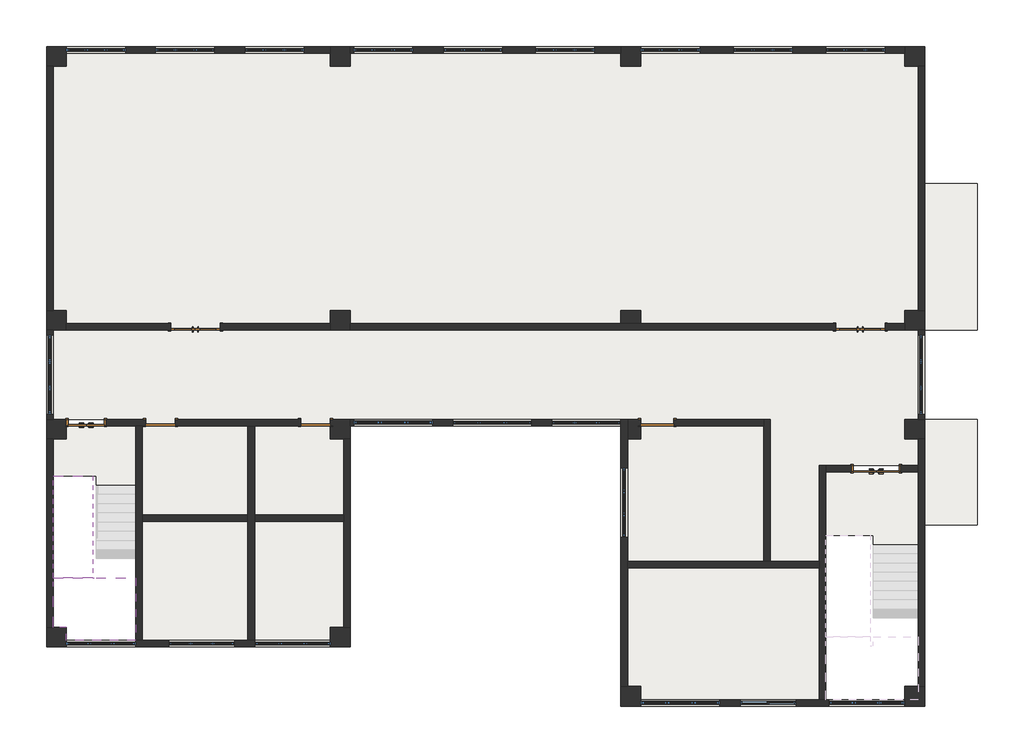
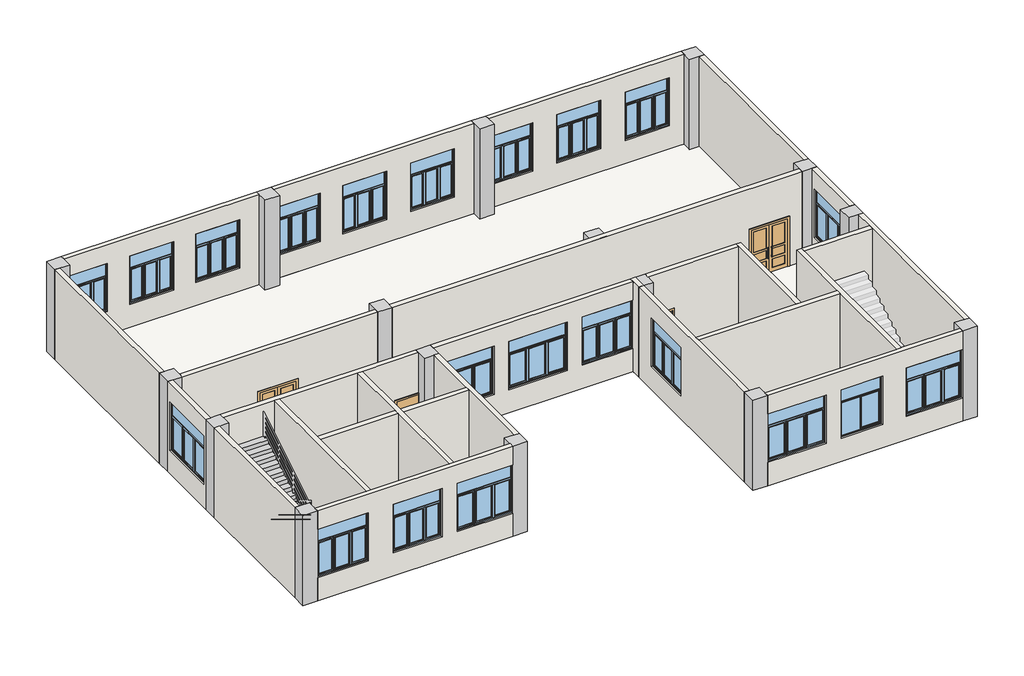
# One storey, part 1 of 3: 25 walls, 21 windows, 16 columns, 7 doors, 6 slabs, 1 stair flight.
"""IFC4 building model written with IfcOpenShell, lengths in millimetres."""

from ifc_helpers import new_model, si_unit, frame, origin, place, context, project, spatial, polyline, outline, extrude, faceted_brep, transform, mapped, element, save
from components import column_600x600_cfa490ef, fm1221_e838069c, fm1521_f2745f28, m0921_bb00f214, m0921_8cb0c558, m1021_0d59c61f, m1221_b3a166ca, m1521_8e1836e7, c1721_525d0301, c1821_f95a3a67, c2021_733b1f83, c2121_4e8fcc55, c2321_a531f027, c2421_0f87a412

model = new_model("IFC4")

# Units and contexts
model_context = context("Model", 3, world=origin())
ifc_project = project(units=[si_unit("LENGTHUNIT", "METRE", prefix="MILLI")], contexts=[model_context])

# Site, building, storey
site = spatial("IfcSite", under=ifc_project)
building = spatial("IfcBuilding", under=site)
storey = spatial("IfcBuildingStorey", under=building, Name="标高 4", Elevation=7100.0)

# Columns
placement = place(None, origin())
column_600x600_shape = column_600x600_cfa490ef(model_context)
element("IfcColumn", 1, ObjectType="混凝土 - 矩形 - 柱 : 600x600", at=placement, inside=storey, context=model_context, shape_type="MappedRepresentation", body=[
    mapped(column_600x600_shape, transform((-12381.7675258, -8436.6725016, 0.0), x_axis=(1.0, 0.0, 0.0), y_axis=(0.0, 1.0, 0.0), z_axis=(0.0, 0.0, 1.0))),
])
element("IfcColumn", 2, ObjectType="混凝土 - 矩形 - 柱 : 600x600", at=placement, inside=storey, context=model_context, shape_type="MappedRepresentation", body=[
    mapped(column_600x600_shape, transform((-12381.7675258, -2136.6725016, 0.0), x_axis=(1.0, 0.0, 0.0), y_axis=(0.0, 1.0, 0.0), z_axis=(0.0, 0.0, 1.0))),
])
element("IfcColumn", 3, ObjectType="混凝土 - 矩形 - 柱 : 600x600", at=placement, inside=storey, context=model_context, shape_type="MappedRepresentation", body=[
    mapped(column_600x600_shape, transform((-12381.7675258, 1163.3274984, 0.0), x_axis=(1.0, 0.0, 0.0), y_axis=(0.0, 1.0, 0.0), z_axis=(0.0, 0.0, 1.0))),
])
element("IfcColumn", 4, ObjectType="混凝土 - 矩形 - 柱 : 600x600", at=placement, inside=storey, context=model_context, shape_type="MappedRepresentation", body=[
    mapped(column_600x600_shape, transform((-12381.7675258, 9163.3274984, 0.0), x_axis=(1.0, 0.0, 0.0), y_axis=(0.0, 1.0, 0.0), z_axis=(0.0, 0.0, 1.0))),
])
element("IfcColumn", 5, ObjectType="混凝土 - 矩形 - 柱 : 600x600", at=placement, inside=storey, context=model_context, shape_type="MappedRepresentation", body=[
    mapped(column_600x600_shape, transform((-3781.7675258, -8436.6725016, 0.0), x_axis=(1.0, 0.0, 0.0), y_axis=(0.0, 1.0, 0.0), z_axis=(0.0, 0.0, 1.0))),
])
element("IfcColumn", 6, ObjectType="混凝土 - 矩形 - 柱 : 600x600", at=placement, inside=storey, context=model_context, shape_type="MappedRepresentation", body=[
    mapped(column_600x600_shape, transform((-3781.7675258, -2136.6725016, 0.0), x_axis=(1.0, 0.0, 0.0), y_axis=(0.0, 1.0, 0.0), z_axis=(0.0, 0.0, 1.0))),
])
element("IfcColumn", 7, ObjectType="混凝土 - 矩形 - 柱 : 600x600", at=placement, inside=storey, context=model_context, shape_type="MappedRepresentation", body=[
    mapped(column_600x600_shape, transform((-3781.7675258, 1163.3274984, 0.0), x_axis=(1.0, 0.0, 0.0), y_axis=(0.0, 1.0, 0.0), z_axis=(0.0, 0.0, 1.0))),
])
element("IfcColumn", 8, ObjectType="混凝土 - 矩形 - 柱 : 600x600", at=placement, inside=storey, context=model_context, shape_type="MappedRepresentation", body=[
    mapped(column_600x600_shape, transform((-3781.7675258, 9163.3274984, 0.0), x_axis=(1.0, 0.0, 0.0), y_axis=(0.0, 1.0, 0.0), z_axis=(0.0, 0.0, 1.0))),
])
element("IfcColumn", 9, ObjectType="混凝土 - 矩形 - 柱 : 600x600", at=placement, inside=storey, context=model_context, shape_type="MappedRepresentation", body=[
    mapped(column_600x600_shape, transform((5018.2324742, -10236.6725016, 0.0), x_axis=(1.0, 0.0, 0.0), y_axis=(0.0, 1.0, 0.0), z_axis=(0.0, 0.0, 1.0))),
])
element("IfcColumn", 10, ObjectType="混凝土 - 矩形 - 柱 : 600x600", at=placement, inside=storey, context=model_context, shape_type="MappedRepresentation", body=[
    mapped(column_600x600_shape, transform((5018.2324742, -2136.6725016, 0.0), x_axis=(1.0, 0.0, 0.0), y_axis=(0.0, 1.0, 0.0), z_axis=(0.0, 0.0, 1.0))),
])
element("IfcColumn", 11, ObjectType="混凝土 - 矩形 - 柱 : 600x600", at=placement, inside=storey, context=model_context, shape_type="MappedRepresentation", body=[
    mapped(column_600x600_shape, transform((5018.2324742, 1163.3274984, 0.0), x_axis=(1.0, 0.0, 0.0), y_axis=(0.0, 1.0, 0.0), z_axis=(0.0, 0.0, 1.0))),
])
element("IfcColumn", 12, ObjectType="混凝土 - 矩形 - 柱 : 600x600", at=placement, inside=storey, context=model_context, shape_type="MappedRepresentation", body=[
    mapped(column_600x600_shape, transform((5018.2324742, 9163.3274984, 0.0), x_axis=(1.0, 0.0, 0.0), y_axis=(0.0, 1.0, 0.0), z_axis=(0.0, 0.0, 1.0))),
])
element("IfcColumn", 13, ObjectType="混凝土 - 矩形 - 柱 : 600x600", at=placement, inside=storey, context=model_context, shape_type="MappedRepresentation", body=[
    mapped(column_600x600_shape, transform((13618.2324742, -10236.6725016, 0.0), x_axis=(1.0, 0.0, 0.0), y_axis=(0.0, 1.0, 0.0), z_axis=(0.0, 0.0, 1.0))),
])
element("IfcColumn", 14, ObjectType="混凝土 - 矩形 - 柱 : 600x600", at=placement, inside=storey, context=model_context, shape_type="MappedRepresentation", body=[
    mapped(column_600x600_shape, transform((13618.2324742, -2136.6725016, 0.0), x_axis=(1.0, 0.0, 0.0), y_axis=(0.0, 1.0, 0.0), z_axis=(0.0, 0.0, 1.0))),
])
element("IfcColumn", 15, ObjectType="混凝土 - 矩形 - 柱 : 600x600", at=placement, inside=storey, context=model_context, shape_type="MappedRepresentation", body=[
    mapped(column_600x600_shape, transform((13618.2324742, 1163.3274984, 0.0), x_axis=(1.0, 0.0, 0.0), y_axis=(0.0, 1.0, 0.0), z_axis=(0.0, 0.0, 1.0))),
])
element("IfcColumn", 16, ObjectType="混凝土 - 矩形 - 柱 : 600x600", at=placement, inside=storey, context=model_context, shape_type="MappedRepresentation", body=[
    mapped(column_600x600_shape, transform((13618.2324742, 9163.3274984, 0.0), x_axis=(1.0, 0.0, 0.0), y_axis=(0.0, 1.0, 0.0), z_axis=(0.0, 0.0, 1.0))),
])

# Doors
fm1221_shape = fm1221_e838069c(model_context)
element("IfcDoor", 17, ObjectType="双扇防火门 : FM1221", at=placement, inside=storey, context=model_context, shape_type="MappedRepresentation", body=[
    mapped(fm1221_shape, transform((-11481.7675258, -1936.6725016, 7100.0), x_axis=(-1.0, 0.0, 0.0), y_axis=(0.0, -1.0, 0.0), z_axis=(0.0, 0.0, 1.0))),
])
fm1521_shape = fm1521_f2745f28(model_context)
element("IfcDoor", 18, ObjectType="双扇防火门 : FM1521", at=placement, inside=storey, context=model_context, shape_type="MappedRepresentation", body=[
    mapped(fm1521_shape, transform((12448.2324742, -3336.6725016, 7100.0), x_axis=(-1.0, 0.0, 0.0), y_axis=(0.0, -1.0, 0.0), z_axis=(0.0, 0.0, 1.0))),
])
m0921_shape = m0921_bb00f214(model_context)
element("IfcDoor", 19, ObjectType="单扇 - 与墙齐 : M0921", at=placement, inside=storey, context=model_context, shape_type="MappedRepresentation", body=[
    mapped(m0921_shape, transform((-4531.7675258, -1936.6725016, 7100.0), x_axis=(1.0, 0.0, 0.0), y_axis=(0.0, 1.0, 0.0), z_axis=(0.0, 0.0, 1.0))),
])
m0921_2_shape = m0921_8cb0c558(model_context)
element("IfcDoor", 20, ObjectType="单扇 - 与墙齐 : M0921", at=placement, inside=storey, context=model_context, shape_type="MappedRepresentation", body=[
    mapped(m0921_2_shape, transform((-9231.7675258, -1936.6725016, 7100.0), x_axis=(-1.0, 0.0, 0.0), y_axis=(0.0, -1.0, 0.0), z_axis=(0.0, 0.0, 1.0))),
])
m1021_shape = m1021_0d59c61f(model_context)
element("IfcDoor", 21, ObjectType="单扇 - 与墙齐 : M1021", at=placement, inside=storey, context=model_context, shape_type="MappedRepresentation", body=[
    mapped(m1021_shape, transform((5818.2324742, -1936.6725016, 7100.0), x_axis=(-1.0, 0.0, 0.0), y_axis=(0.0, -1.0, 0.0), z_axis=(0.0, 0.0, 1.0))),
])
m1221_shape = m1221_b3a166ca(model_context)
m1521_shape = m1521_8e1836e7(model_context)
element("IfcDoor", 22, ObjectType="双面嵌板木门 2 : M1521", at=placement, inside=storey, context=model_context, shape_type="MappedRepresentation", body=[
    mapped(m1221_shape, transform((-8171.7675258, 963.3274984, 7100.0), x_axis=(-1.0, 0.0, 0.0), y_axis=(0.0, -1.0, 0.0), z_axis=(0.0, 0.0, 1.0))),
    mapped(m1521_shape, transform((-8171.7675258, 963.3274984, 7100.0), x_axis=(-1.0, 0.0, 0.0), y_axis=(0.0, -1.0, 0.0), z_axis=(0.0, 0.0, 1.0))),
])
element("IfcDoor", 23, ObjectType="双面嵌板木门 2 : M1521", at=placement, inside=storey, context=model_context, shape_type="MappedRepresentation", body=[
    mapped(m1221_shape, transform((11968.2324742, 963.3274984, 7100.0), x_axis=(-1.0, 0.0, 0.0), y_axis=(0.0, -1.0, 0.0), z_axis=(0.0, 0.0, 1.0))),
    mapped(m1521_shape, transform((11968.2324742, 963.3274984, 7100.0), x_axis=(-1.0, 0.0, 0.0), y_axis=(0.0, -1.0, 0.0), z_axis=(0.0, 0.0, 1.0))),
])

# Slabs
element("IfcSlab", 24, ObjectType="楼板-120", at=placement, inside=storey, context=model_context, shape_type="SweptSolid", body=[
    extrude(outline(polyline([(13718.2324742, 9263.3274984), (13718.2324742, -3236.6725016), (10718.2324742, -3236.6725016), (10718.2324742, -10336.6725016), (4918.2324742, -10336.6725016), (4918.2324742, -1836.6725016), (-3681.7675258, -1836.6725016), (-3681.7675258, -8536.6725016), (-9781.7675258, -8536.6725016), (-9781.7675258, -1836.6725016), (-12481.7675258, -1836.6725016), (-12481.7675258, 9263.3274984), (13718.2324742, 9263.3274984)])), frame((0.0, 0.0, 6980.0), z_axis=(0.0, 0.0, 1.0), x_axis=(1.0, 0.0, 0.0)), (0.0, 0.0, 1.0), 120.0),
])
element("IfcSlab", 25, ObjectType="雨棚", at=placement, inside=storey, context=model_context, shape_type="SweptSolid", body=[
    extrude(outline(polyline([(15518.2324742, 5313.3274984), (15518.2324742, 863.3274984), (13918.2324742, 863.3274984), (13918.2324742, 5313.3274984), (15518.2324742, 5313.3274984)])), frame((0.0, 0.0, 7180.0), z_axis=(0.0, 0.0, 1.0), x_axis=(1.0, 0.0, 0.0)), (0.0, 0.0, 1.0), 120.0),
])
element("IfcSlab", 26, ObjectType="雨棚", at=placement, inside=storey, context=model_context, shape_type="SweptSolid", body=[
    extrude(outline(polyline([(15518.2324742, -1836.6725016), (15518.2324742, -5036.6725016), (13918.2324742, -5036.6725016), (13918.2324742, -1836.6725016), (15518.2324742, -1836.6725016)])), frame((0.0, 0.0, 7180.0), z_axis=(0.0, 0.0, 1.0), x_axis=(1.0, 0.0, 0.0)), (0.0, 0.0, 1.0), 120.0),
])
element("IfcSlab", 27, ObjectType="楼板-120", at=placement, inside=storey, context=model_context, shape_type="SweptSolid", body=[
    extrude(outline(polyline([(-9987.1675258, -3836.6725016), (-11171.3675258, -3836.6725016), (-11171.3675258, -3556.6725016), (-12476.3675258, -3556.6725016), (-12476.3675258, -2436.6725016), (-12081.7675258, -2436.6725016), (-12081.7675258, -2030.3725016), (-9981.7486258, -2030.3725016), (-9987.1675258, -3836.6725016)])), frame((0.0, 0.0, 6980.0), z_axis=(0.0, 0.0, 1.0), x_axis=(1.0, 0.0, 0.0)), (0.0, 0.0, 1.0), 120.0),
])
element("IfcSlab", 28, ObjectType="楼板-120", at=placement, inside=storey, context=model_context, shape_type="SweptSolid", body=[
    extrude(outline(polyline([(13718.2324742, -3436.6725016), (13718.2324742, -5636.6725016), (12368.2324742, -5636.6725016), (12368.2324742, -5356.6725016), (10913.6324742, -5356.6725016), (10913.6324742, -3436.6725016), (13718.2324742, -3436.6725016)])), frame((0.0, 0.0, 6980.0), z_axis=(0.0, 0.0, 1.0), x_axis=(1.0, 0.0, 0.0)), (0.0, 0.0, 1.0), 120.0),
])
element("IfcSlab", 29, ObjectType="150", at=placement, inside=storey, context=model_context, shape_type="Brep", body=[
    faceted_brep([(-9981.7675258, -6636.6725016, 8965.2173913), (-11181.7675258, -6636.6725016, 8965.2173913), (-11281.7675258, -6636.6725016, 8965.2173913), (-12481.7675258, -6636.6725016, 8965.2173913), (-12481.7675258, -6900.4001578, 8965.2173913), (-12481.7675258, -8136.6725016, 8965.2173913), (-12081.7675258, -8136.6725016, 8965.2173913), (-12081.7675258, -8536.6725016, 8965.2173913), (-9981.7675258, -8536.6725016, 8965.2173913), (-9981.7675258, -6652.9448454, 8965.2173913), (-12481.7675258, -8136.6725016, 8665.2173913), (-12081.7675258, -8136.6725016, 8665.2173913), (-12081.7675258, -8536.6725016, 8665.2173913), (-9981.7675258, -8536.6725016, 8665.2173913), (-9981.7675258, -6636.6725016, 8655.3630216), (-9981.7675258, -6636.6725016, 8795.6521739), (-9981.7675258, -6652.9448454, 8665.2173913), (-12481.7675258, -6636.6725016, 8824.928239), (-12481.7675258, -6900.4001578, 8665.2173913), (-11281.7675258, -6900.4001578, 8665.2173913), (-11281.7675258, -6636.6725016, 8824.928239), (-11181.7675258, -6636.6725016, 8655.3630216), (-11181.7675258, -6636.6725016, 8665.2173913), (-11281.7675258, -6636.6725016, 8665.2173913), (-11181.7675258, -6652.9448454, 8665.2173913)], [[[0, 1, 2, 3, 4, 5, 6, 7, 8, 9]], [[6, 5, 10, 11]], [[7, 6, 11, 12]], [[8, 7, 12, 13]], [[14, 15, 0, 9, 8, 13, 16]], [[3, 17, 18, 10, 5, 4]], [[19, 18, 17, 20]], [[1, 0, 15, 14, 21, 22]], [[2, 1, 22, 23, 20]], [[3, 2, 20, 17]], [[19, 23, 22, 24, 16, 13, 12, 11, 10, 18]], [[23, 19, 20]], [[16, 24, 21, 14]], [[24, 22, 21]]]),
])

# Stair flight
element("IfcStairFlight", 30, ObjectType="150", at=placement, inside=storey, context=model_context, shape_type="Brep", body=[
    faceted_brep([(-12481.7675258, -6356.6725016, 9134.7826087), (-12481.7675258, -6636.6725016, 9134.7826087), (-11281.7675258, -6636.6725016, 9134.7826087), (-11281.7675258, -6356.6725016, 9134.7826087), (-12481.7675258, -6356.6725016, 8994.4934564), (-12481.7675258, -6636.6725016, 8824.928239), (-12481.7675258, -6636.6725016, 8965.2173913), (-11281.7675258, -6636.6725016, 8824.928239), (-11281.7675258, -6356.6725016, 8994.4934564), (-12481.7675258, -6076.6725016, 9304.3478261), (-12481.7675258, -6356.6725016, 9304.3478261), (-11281.7675258, -6356.6725016, 9304.3478261), (-11281.7675258, -6076.6725016, 9304.3478261), (-12481.7675258, -6076.6725016, 9164.0586738), (-11281.7675258, -6076.6725016, 9164.0586738), (-12481.7675258, -5796.6725016, 9473.9130435), (-12481.7675258, -6076.6725016, 9473.9130435), (-11281.7675258, -6076.6725016, 9473.9130435), (-11281.7675258, -5796.6725016, 9473.9130435), (-12481.7675258, -5796.6725016, 9333.6238912), (-11281.7675258, -5796.6725016, 9333.6238912), (-12481.7675258, -5516.6725016, 9643.4782609), (-12481.7675258, -5796.6725016, 9643.4782609), (-11281.7675258, -5796.6725016, 9643.4782609), (-11281.7675258, -5516.6725016, 9643.4782609), (-12481.7675258, -5516.6725016, 9503.1891086), (-11281.7675258, -5516.6725016, 9503.1891086), (-12481.7675258, -5236.6725016, 9813.0434783), (-12481.7675258, -5516.6725016, 9813.0434783), (-11281.7675258, -5516.6725016, 9813.0434783), (-11281.7675258, -5236.6725016, 9813.0434783), (-12481.7675258, -5236.6725016, 9672.754326), (-11281.7675258, -5236.6725016, 9672.754326), (-12481.7675258, -4956.6725016, 9982.6086957), (-12481.7675258, -5236.6725016, 9982.6086957), (-11281.7675258, -5236.6725016, 9982.6086957), (-11281.7675258, -4956.6725016, 9982.6086957), (-12481.7675258, -4956.6725016, 9842.3195433), (-11281.7675258, -4956.6725016, 9842.3195433), (-12481.7675258, -4676.6725016, 10152.173913), (-12481.7675258, -4956.6725016, 10152.173913), (-11281.7675258, -4956.6725016, 10152.173913), (-11281.7675258, -4676.6725016, 10152.173913), (-12481.7675258, -4676.6725016, 10011.8847607), (-11281.7675258, -4676.6725016, 10011.8847607), (-12481.7675258, -4396.6725016, 10321.7391304), (-12481.7675258, -4676.6725016, 10321.7391304), (-11281.7675258, -4676.6725016, 10321.7391304), (-11281.7675258, -4396.6725016, 10321.7391304), (-12481.7675258, -4396.6725016, 10181.4499781), (-11281.7675258, -4396.6725016, 10181.4499781), (-12481.7675258, -4116.6725016, 10491.3043478), (-12481.7675258, -4396.6725016, 10491.3043478), (-11281.7675258, -4396.6725016, 10491.3043478), (-11281.7675258, -4116.6725016, 10491.3043478), (-12481.7675258, -4116.6725016, 10351.0151955), (-11281.7675258, -4116.6725016, 10351.0151955), (-12481.7675258, -3836.6725016, 10660.8695652), (-12481.7675258, -4116.6725016, 10660.8695652), (-11281.7675258, -4116.6725016, 10660.8695652), (-11281.7675258, -3836.6725016, 10660.8695652), (-12481.7675258, -3836.6725016, 10520.5804129), (-11281.7675258, -3836.6725016, 10520.5804129), (-12481.7675258, -3556.6725016, 10830.4347826), (-12481.7675258, -3836.6725016, 10830.4347826), (-11281.7675258, -3836.6725016, 10830.4347826), (-11281.7675258, -3556.6725016, 10830.4347826), (-12481.7675258, -3556.6725016, 10690.1456303), (-11281.7675258, -3556.6725016, 10690.1456303)], [[[0, 1, 2, 3]], [[1, 0, 4, 5, 6]], [[2, 1, 6, 5, 7]], [[3, 2, 7, 8]], [[9, 10, 11, 12]], [[10, 9, 13, 4, 0]], [[11, 10, 0, 3]], [[12, 11, 3, 8, 14]], [[15, 16, 17, 18]], [[16, 15, 19, 13, 9]], [[17, 16, 9, 12]], [[18, 17, 12, 14, 20]], [[21, 22, 23, 24]], [[22, 21, 25, 19, 15]], [[23, 22, 15, 18]], [[24, 23, 18, 20, 26]], [[27, 28, 29, 30]], [[28, 27, 31, 25, 21]], [[29, 28, 21, 24]], [[30, 29, 24, 26, 32]], [[33, 34, 35, 36]], [[34, 33, 37, 31, 27]], [[35, 34, 27, 30]], [[36, 35, 30, 32, 38]], [[39, 40, 41, 42]], [[40, 39, 43, 37, 33]], [[41, 40, 33, 36]], [[42, 41, 36, 38, 44]], [[45, 46, 47, 48]], [[46, 45, 49, 43, 39]], [[47, 46, 39, 42]], [[48, 47, 42, 44, 50]], [[51, 52, 53, 54]], [[52, 51, 55, 49, 45]], [[53, 52, 45, 48]], [[54, 53, 48, 50, 56]], [[57, 58, 59, 60]], [[58, 57, 61, 55, 51]], [[59, 58, 51, 54]], [[60, 59, 54, 56, 62]], [[63, 64, 65, 66]], [[64, 63, 67, 61, 57]], [[65, 64, 57, 60]], [[66, 65, 60, 62, 68]], [[63, 66, 68, 67]], [[5, 4, 13, 19, 25, 31, 37, 43, 49, 55, 61, 67, 68, 62, 56, 50, 44, 38, 32, 26, 20, 14, 8, 7]]]),
])

# Walls
element("IfcWall", 31, ObjectType="Q-200", at=placement, inside=storey, context=model_context, shape_type="SweptSolid", body=[
    extrude(outline(polyline([(11000.0, -12081.7675258), (10200.0, -12081.7675258), (10200.0, -10281.7675258), (8100.0, -10281.7675258), (8100.0, -12081.7675258), (7100.0, -12081.7675258), (7100.0, -4081.7675258), (11000.0, -4081.7675258), (11000.0, -12081.7675258)]), holes=[polyline([(8100.0, -6681.7675258), (10200.0, -6681.7675258), (10200.0, -4881.7675258), (8100.0, -4881.7675258), (8100.0, -6681.7675258)]), polyline([(8100.0, -9381.7675258), (10200.0, -9381.7675258), (10200.0, -7581.7675258), (8100.0, -7581.7675258), (8100.0, -9381.7675258)])]), frame((0.0, 9263.3274984, 0.0), z_axis=(0.0, 1.0, 0.0), x_axis=(0.0, 0.0, 1.0)), (0.0, 0.0, 1.0), 200.0),
])
element("IfcWall", 32, ObjectType="Q-200", at=placement, inside=storey, context=model_context, shape_type="SweptSolid", body=[
    extrude(outline(polyline([(7100.0, -3481.7675258), (7100.0, 4718.2324742), (11000.0, 4718.2324742), (11000.0, -3481.7675258), (7100.0, -3481.7675258)]), holes=[polyline([(8100.0, 2118.2324742), (10200.0, 2118.2324742), (10200.0, 3918.2324742), (8100.0, 3918.2324742), (8100.0, 2118.2324742)]), polyline([(8100.0, -661.7675258), (10200.0, -661.7675258), (10200.0, 1138.2324742), (8100.0, 1138.2324742), (8100.0, -661.7675258)]), polyline([(8100.0, -3381.7675258), (10200.0, -3381.7675258), (10200.0, -1581.7675258), (8100.0, -1581.7675258), (8100.0, -3381.7675258)])]), frame((0.0, 9263.3274984, 0.0), z_axis=(0.0, 1.0, 0.0), x_axis=(0.0, 0.0, 1.0)), (0.0, 0.0, 1.0), 200.0),
])
element("IfcWall", 33, ObjectType="Q-200", at=placement, inside=storey, context=model_context, shape_type="SweptSolid", body=[
    extrude(outline(polyline([(7100.0, 5318.2324742), (7100.0, 13318.2324742), (11000.0, 13318.2324742), (11000.0, 5318.2324742), (10200.0, 5318.2324742), (10200.0, 7118.2324742), (8100.0, 7118.2324742), (8100.0, 5318.2324742), (7100.0, 5318.2324742)]), holes=[polyline([(8100.0, 10918.2324742), (10200.0, 10918.2324742), (10200.0, 12718.2324742), (8100.0, 12718.2324742), (8100.0, 10918.2324742)]), polyline([(8100.0, 8118.2324742), (10200.0, 8118.2324742), (10200.0, 9918.2324742), (8100.0, 9918.2324742), (8100.0, 8118.2324742)])]), frame((0.0, 9263.3274984, 0.0), z_axis=(0.0, 1.0, 0.0), x_axis=(0.0, 0.0, 1.0)), (0.0, 0.0, 1.0), 200.0),
])
element("IfcWall", 34, ObjectType="Q-200", at=placement, inside=storey, context=model_context, shape_type="SweptSolid", body=[
    extrude(outline(polyline([(13718.2324742, 1463.3274984), (13718.2324742, 8863.3274984), (13918.2324742, 8863.3274984), (13918.2324742, 1463.3274984), (13718.2324742, 1463.3274984)])), frame((0.0, 0.0, 7100.0), z_axis=(0.0, 0.0, 1.0), x_axis=(1.0, 0.0, 0.0)), (0.0, 0.0, 1.0), 3900.0),
])
element("IfcWall", 35, ObjectType="Q-200", at=placement, inside=storey, context=model_context, shape_type="SweptSolid", body=[
    extrude(outline(polyline([(863.3274984, 7100.0), (-1836.6725016, 7100.0), (-1836.6725016, 11000.0), (863.3274984, 11000.0), (863.3274984, 7100.0)]), holes=[polyline([(713.3274984, 8100.0), (713.3274984, 10200.0), (-1686.6725016, 10200.0), (-1686.6725016, 8100.0), (713.3274984, 8100.0)])]), frame((13718.2324742, 0.0, 0.0), z_axis=(1.0, 0.0, 0.0), x_axis=(0.0, 1.0, 0.0)), (0.0, 0.0, 1.0), 200.0),
])
element("IfcWall", 36, ObjectType="Q-200", at=placement, inside=storey, context=model_context, shape_type="Brep", body=[
    faceted_brep([(13718.2324742, -2436.6725016, 7100.0), (13718.2324742, -3236.6725016, 7100.0), (13718.2324742, -3436.6725016, 7100.0), (13718.2324742, -9936.6725016, 7100.0), (13718.2324742, -9936.6725016, 11000.0), (13718.2324742, -3436.6725016, 11000.0), (13718.2324742, -3236.6725016, 11000.0), (13718.2324742, -2436.6725016, 11000.0), (13918.2324742, -2436.6725016, 7100.0), (13918.2324742, -2436.6725016, 11000.0), (13918.2324742, -9936.6725016, 11000.0), (13918.2324742, -9936.6725016, 7100.0)], [[[0, 1, 2, 3, 4, 5, 6, 7]], [[8, 9, 10, 11]], [[3, 2, 1, 0, 8, 11]], [[4, 3, 11, 10]], [[7, 6, 5, 4, 10, 9]], [[0, 7, 9, 8]]]),
])
element("IfcWall", 37, ObjectType="Q-200", at=placement, inside=storey, context=model_context, shape_type="Brep", body=[
    faceted_brep([(5318.2324742, -10336.6725016, 7100.0), (5318.2324742, -10336.6725016, 8100.0), (7718.2324742, -10336.6725016, 8100.0), (7718.2324742, -10336.6725016, 10200.0), (5318.2324742, -10336.6725016, 10200.0), (5318.2324742, -10336.6725016, 11000.0), (10718.2324742, -10336.6725016, 11000.0), (10918.2324742, -10336.6725016, 11000.0), (13318.2324742, -10336.6725016, 11000.0), (13318.2324742, -10336.6725016, 7100.0), (10918.2324742, -10336.6725016, 7100.0), (10718.2324742, -10336.6725016, 7100.0), (13308.2324742, -10336.6725016, 8100.0), (13308.2324742, -10336.6725016, 10200.0), (11008.2324742, -10336.6725016, 10200.0), (11008.2324742, -10336.6725016, 8100.0), (10028.2324742, -10336.6725016, 8100.0), (10028.2324742, -10336.6725016, 10200.0), (8328.2324742, -10336.6725016, 10200.0), (8328.2324742, -10336.6725016, 8100.0), (7718.2324742, -10536.6725016, 8100.0), (5318.2324742, -10536.6725016, 8100.0), (5318.2324742, -10536.6725016, 7100.0), (13318.2324742, -10536.6725016, 7100.0), (13318.2324742, -10536.6725016, 11000.0), (5318.2324742, -10536.6725016, 11000.0), (5318.2324742, -10536.6725016, 10200.0), (7718.2324742, -10536.6725016, 10200.0), (13308.2324742, -10536.6725016, 8100.0), (11008.2324742, -10536.6725016, 8100.0), (11008.2324742, -10536.6725016, 10200.0), (13308.2324742, -10536.6725016, 10200.0), (10028.2324742, -10536.6725016, 8100.0), (8328.2324742, -10536.6725016, 8100.0), (8328.2324742, -10536.6725016, 10200.0), (10028.2324742, -10536.6725016, 10200.0)], [[[0, 1, 2, 3, 4, 5, 6, 7, 8, 9, 10, 11], [12, 13, 14, 15], [16, 17, 18, 19]], [[20, 21, 22, 23, 24, 25, 26, 27], [28, 29, 30, 31], [32, 33, 34, 35]], [[0, 11, 10, 9, 23, 22]], [[26, 25, 5, 4]], [[22, 21, 1, 0]], [[8, 7, 6, 5, 25, 24]], [[9, 8, 24, 23]], [[3, 2, 20, 27]], [[4, 3, 27, 26]], [[2, 1, 21, 20]], [[13, 12, 28, 31]], [[14, 13, 31, 30]], [[15, 14, 30, 29]], [[12, 15, 29, 28]], [[17, 16, 32, 35]], [[18, 17, 35, 34]], [[19, 18, 34, 33]], [[16, 19, 33, 32]]]),
])
element("IfcWall", 38, ObjectType="Q-200", at=placement, inside=storey, context=model_context, shape_type="Brep", body=[
    faceted_brep([(4918.2324742, -9936.6725016, 7100.0), (4918.2324742, -6336.6725016, 7100.0), (4918.2324742, -6136.6725016, 7100.0), (4918.2324742, -1836.6725016, 7100.0), (4918.2324742, -1836.6725016, 11000.0), (4918.2324742, -6136.6725016, 11000.0), (4918.2324742, -6336.6725016, 11000.0), (4918.2324742, -9936.6725016, 11000.0), (4918.2324742, -3316.6725016, 8100.0), (4918.2324742, -5416.6725016, 8100.0), (4918.2324742, -5416.6725016, 10200.0), (4918.2324742, -3316.6725016, 10200.0), (4718.2324742, -9936.6725016, 7100.0), (4718.2324742, -9936.6725016, 11000.0), (4718.2324742, -2036.6725016, 11000.0), (4718.2324742, -1836.6725016, 11000.0), (4718.2324742, -1836.6725016, 10200.0), (4718.2324742, -1836.6725016, 8100.0), (4718.2324742, -1836.6725016, 7100.0), (4718.2324742, -2036.6725016, 7100.0), (4718.2324742, -3316.6725016, 8100.0), (4718.2324742, -3316.6725016, 10200.0), (4718.2324742, -5416.6725016, 10200.0), (4718.2324742, -5416.6725016, 8100.0)], [[[0, 1, 2, 3, 4, 5, 6, 7], [8, 9, 10, 11]], [[12, 13, 14, 15, 16, 17, 18, 19], [20, 21, 22, 23]], [[3, 2, 1, 0, 12, 19, 18]], [[7, 6, 5, 4, 15, 14, 13]], [[0, 7, 13, 12]], [[4, 3, 18, 17, 16, 15]], [[21, 20, 8, 11]], [[22, 21, 11, 10]], [[23, 22, 10, 9]], [[20, 23, 9, 8]]]),
])
element("IfcWall", 39, ObjectType="Q-200", at=placement, inside=storey, context=model_context, shape_type="SweptSolid", body=[
    extrude(outline(polyline([(7100.0, 4718.2324742), (8100.0, 4718.2324742), (8100.0, 2618.2324742), (10200.0, 2618.2324742), (10200.0, 4718.2324742), (11000.0, 4718.2324742), (11000.0, -3481.7675258), (7100.0, -3481.7675258), (7100.0, 4718.2324742)]), holes=[polyline([(8100.0, -981.7675258), (8100.0, -3381.7675258), (10200.0, -3381.7675258), (10200.0, -981.7675258), (8100.0, -981.7675258)]), polyline([(8100.0, -381.7675258), (10200.0, -381.7675258), (10200.0, 2018.2324742), (8100.0, 2018.2324742), (8100.0, -381.7675258)])]), frame((0.0, -2036.6725016, 0.0), z_axis=(0.0, 1.0, 0.0), x_axis=(0.0, 0.0, 1.0)), (0.0, 0.0, 1.0), 200.0),
])
element("IfcWall", 40, ObjectType="Q-200", at=placement, inside=storey, context=model_context, shape_type="Brep", body=[
    faceted_brep([(-3681.7675258, -2436.6725016, 7100.0), (-3681.7675258, -4736.6725016, 7100.0), (-3681.7675258, -4936.6725016, 7100.0), (-3681.7675258, -8136.6725016, 7100.0), (-3681.7675258, -8136.6725016, 11000.0), (-3681.7675258, -4936.6725016, 11000.0), (-3681.7675258, -4736.6725016, 11000.0), (-3681.7675258, -2436.6725016, 11000.0), (-3481.7675258, -2436.6725016, 7100.0), (-3481.7675258, -2436.6725016, 11000.0), (-3481.7675258, -8136.6725016, 11000.0), (-3481.7675258, -8136.6725016, 7100.0)], [[[0, 1, 2, 3, 4, 5, 6, 7]], [[8, 9, 10, 11]], [[3, 2, 1, 0, 8, 11]], [[4, 3, 11, 10]], [[7, 6, 5, 4, 10, 9]], [[0, 7, 9, 8]]]),
])
element("IfcWall", 41, ObjectType="Q-200", at=placement, inside=storey, context=model_context, shape_type="Brep", body=[
    faceted_brep([(-12081.7675258, -8536.6725016, 7100.0), (-12081.7675258, -8536.6725016, 8100.0), (-9981.7675258, -8536.6725016, 8100.0), (-9981.7675258, -8536.6725016, 10200.0), (-12081.7675258, -8536.6725016, 10200.0), (-12081.7675258, -8536.6725016, 11000.0), (-9981.7675258, -8536.6725016, 11000.0), (-9781.7675258, -8536.6725016, 11000.0), (-6581.7675258, -8536.6725016, 11000.0), (-6381.7675258, -8536.6725016, 11000.0), (-4081.7675258, -8536.6725016, 11000.0), (-4081.7675258, -8536.6725016, 10200.0), (-6373.5634478, -8536.6725016, 10200.0), (-6373.5634478, -8536.6725016, 8100.0), (-4081.7675258, -8536.6725016, 8100.0), (-4081.7675258, -8536.6725016, 7100.0), (-6381.7675258, -8536.6725016, 7100.0), (-6581.7675258, -8536.6725016, 7100.0), (-9781.7675258, -8536.6725016, 7100.0), (-9981.7675258, -8536.6725016, 7100.0), (-6981.7675258, -8536.6725016, 8100.0), (-6981.7675258, -8536.6725016, 10200.0), (-8981.7675258, -8536.6725016, 10200.0), (-8981.7675258, -8536.6725016, 8100.0), (-9981.7675258, -8736.6725016, 8100.0), (-12081.7675258, -8736.6725016, 8100.0), (-12081.7675258, -8736.6725016, 7100.0), (-4081.7675258, -8736.6725016, 7100.0), (-4081.7675258, -8736.6725016, 8100.0), (-6373.5634478, -8736.6725016, 8100.0), (-6373.5634478, -8736.6725016, 10200.0), (-4081.7675258, -8736.6725016, 10200.0), (-4081.7675258, -8736.6725016, 11000.0), (-12081.7675258, -8736.6725016, 11000.0), (-12081.7675258, -8736.6725016, 10200.0), (-9981.7675258, -8736.6725016, 10200.0), (-6981.7675258, -8736.6725016, 8100.0), (-8981.7675258, -8736.6725016, 8100.0), (-8981.7675258, -8736.6725016, 10200.0), (-6981.7675258, -8736.6725016, 10200.0)], [[[0, 1, 2, 3, 4, 5, 6, 7, 8, 9, 10, 11, 12, 13, 14, 15, 16, 17, 18, 19], [20, 21, 22, 23]], [[24, 25, 26, 27, 28, 29, 30, 31, 32, 33, 34, 35], [36, 37, 38, 39]], [[0, 19, 18, 17, 16, 15, 27, 26]], [[34, 33, 5, 4]], [[26, 25, 1, 0]], [[10, 9, 8, 7, 6, 5, 33, 32]], [[10, 32, 31, 11]], [[27, 15, 14, 28]], [[30, 12, 11, 31]], [[12, 30, 29, 13]], [[13, 29, 28, 14]], [[21, 20, 36, 39]], [[22, 21, 39, 38]], [[23, 22, 38, 37]], [[20, 23, 37, 36]], [[3, 2, 24, 35]], [[4, 3, 35, 34]], [[2, 1, 25, 24]]]),
])
element("IfcWall", 42, ObjectType="Q-200", at=placement, inside=storey, context=model_context, shape_type="SweptSolid", body=[
    extrude(outline(polyline([(-12481.7675258, -2436.6725016), (-12481.7675258, -8136.6725016), (-12681.7675258, -8136.6725016), (-12681.7675258, -2436.6725016), (-12481.7675258, -2436.6725016)])), frame((0.0, 0.0, 7100.0), z_axis=(0.0, 0.0, 1.0), x_axis=(1.0, 0.0, 0.0)), (0.0, 0.0, 1.0), 3900.0),
])
element("IfcWall", 43, ObjectType="Q-200", at=placement, inside=storey, context=model_context, shape_type="SweptSolid", body=[
    extrude(outline(polyline([(-1836.6725016, 7100.0), (-1836.6725016, 11000.0), (863.3274984, 11000.0), (863.3274984, 7100.0), (-1836.6725016, 7100.0)]), holes=[polyline([(713.3274984, 8100.0), (713.3274984, 10200.0), (-1686.6725016, 10200.0), (-1686.6725016, 8100.0), (713.3274984, 8100.0)])]), frame((-12681.7675258, 0.0, 0.0), z_axis=(1.0, 0.0, 0.0), x_axis=(0.0, 1.0, 0.0)), (0.0, 0.0, 1.0), 200.0),
])
element("IfcWall", 44, ObjectType="Q-200", at=placement, inside=storey, context=model_context, shape_type="SweptSolid", body=[
    extrude(outline(polyline([(-12481.7675258, 8863.3274984), (-12481.7675258, 1463.3274984), (-12681.7675258, 1463.3274984), (-12681.7675258, 8863.3274984), (-12481.7675258, 8863.3274984)])), frame((0.0, 0.0, 7100.0), z_axis=(0.0, 0.0, 1.0), x_axis=(1.0, 0.0, 0.0)), (0.0, 0.0, 1.0), 3900.0),
])
element("IfcWall", 45, ObjectType="Q-200", at=placement, inside=storey, context=model_context, shape_type="SweptSolid", body=[
    extrude(outline(polyline([(7100.0, -4081.7675258), (11000.0, -4081.7675258), (11000.0, -12081.7675258), (7100.0, -12081.7675258), (7100.0, -8921.7675258), (9200.0, -8921.7675258), (9200.0, -7421.7675258), (7100.0, -7421.7675258), (7100.0, -4081.7675258)])), frame((0.0, 863.3274984, 0.0), z_axis=(0.0, 1.0, 0.0), x_axis=(0.0, 0.0, 1.0)), (0.0, 0.0, 1.0), 200.0),
])
element("IfcWall", 46, ObjectType="Q-200", at=placement, inside=storey, context=model_context, shape_type="SweptSolid", body=[
    extrude(outline(polyline([(7100.0, 13318.2324742), (11000.0, 13318.2324742), (11000.0, -3481.7675258), (7100.0, -3481.7675258), (7100.0, 11218.2324742), (9200.0, 11218.2324742), (9200.0, 12718.2324742), (7100.0, 12718.2324742), (7100.0, 13318.2324742)])), frame((0.0, 863.3274984, 0.0), z_axis=(0.0, 1.0, 0.0), x_axis=(0.0, 0.0, 1.0)), (0.0, 0.0, 1.0), 200.0),
])
element("IfcWall", 47, ObjectType="Q-200", at=placement, inside=storey, context=model_context, shape_type="Brep", body=[
    faceted_brep([(-4081.7675258, -2036.6725016, 11000.0), (-6381.7675258, -2036.6725016, 11000.0), (-6581.7675258, -2036.6725016, 11000.0), (-9781.7675258, -2036.6725016, 11000.0), (-9981.7675258, -2036.6725016, 11000.0), (-12081.7675258, -2036.6725016, 11000.0), (-12081.7675258, -2036.6725016, 9200.0), (-10881.7675258, -2036.6725016, 9200.0), (-10881.7675258, -2036.6725016, 7100.0), (-9981.7675258, -2036.6725016, 7100.0), (-9781.7675258, -2036.6725016, 7100.0), (-9681.7675258, -2036.6725016, 7100.0), (-9681.7675258, -2036.6725016, 9200.0), (-8781.7675258, -2036.6725016, 9200.0), (-8781.7675258, -2036.6725016, 7100.0), (-6581.7675258, -2036.6725016, 7100.0), (-6381.7675258, -2036.6725016, 7100.0), (-4981.7675258, -2036.6725016, 7100.0), (-4981.7675258, -2036.6725016, 9200.0), (-4081.7675258, -2036.6725016, 9200.0), (-12081.7675258, -1836.6725016, 11000.0), (-4081.7675258, -1836.6725016, 11000.0), (-4081.7675258, -1836.6725016, 9200.0), (-4981.7675258, -1836.6725016, 9200.0), (-4981.7675258, -1836.6725016, 7100.0), (-8781.7675258, -1836.6725016, 7100.0), (-8781.7675258, -1836.6725016, 9200.0), (-9681.7675258, -1836.6725016, 9200.0), (-9681.7675258, -1836.6725016, 7100.0), (-10881.7675258, -1836.6725016, 7100.0), (-10881.7675258, -1836.6725016, 9200.0), (-12081.7675258, -1836.6725016, 9200.0)], [[[0, 1, 2, 3, 4, 5, 6, 7, 8, 9, 10, 11, 12, 13, 14, 15, 16, 17, 18, 19]], [[20, 21, 22, 23, 24, 25, 26, 27, 28, 29, 30, 31]], [[8, 29, 28, 11, 10, 9]], [[14, 25, 24, 17, 16, 15]], [[21, 0, 19, 22]], [[5, 4, 3, 2, 1, 0, 21, 20]], [[5, 20, 31, 6]], [[30, 7, 6, 31]], [[7, 30, 29, 8]], [[12, 11, 28, 27]], [[13, 12, 27, 26]], [[14, 13, 26, 25]], [[18, 23, 22, 19]], [[23, 18, 17, 24]]]),
])
element("IfcWall", 48, ObjectType="Q-200", at=placement, inside=storey, context=model_context, shape_type="Brep", body=[
    faceted_brep([(-9981.7675258, -2036.6725016, 7100.0), (-9981.7675258, -8536.6725016, 7100.0), (-9981.7675258, -8536.6725016, 8100.0), (-9981.7675258, -8536.6725016, 10200.0), (-9981.7675258, -8536.6725016, 11000.0), (-9981.7675258, -2036.6725016, 11000.0), (-9781.7675258, -2036.6725016, 7100.0), (-9781.7675258, -2036.6725016, 11000.0), (-9781.7675258, -4736.6725016, 11000.0), (-9781.7675258, -4936.6725016, 11000.0), (-9781.7675258, -8536.6725016, 11000.0), (-9781.7675258, -8536.6725016, 7100.0), (-9781.7675258, -4936.6725016, 7100.0), (-9781.7675258, -4736.6725016, 7100.0)], [[[0, 1, 2, 3, 4, 5]], [[6, 7, 8, 9, 10, 11, 12, 13]], [[1, 0, 6, 13, 12, 11]], [[5, 4, 10, 9, 8, 7]], [[4, 3, 2, 1, 11, 10]], [[0, 5, 7, 6]]]),
])
element("IfcWall", 49, ObjectType="Q-200", at=placement, inside=storey, context=model_context, shape_type="Brep", body=[
    faceted_brep([(-6381.7675258, -8536.6725016, 7100.0), (-6381.7675258, -4936.6725016, 7100.0), (-6381.7675258, -4736.6725016, 7100.0), (-6381.7675258, -2036.6725016, 7100.0), (-6381.7675258, -2036.6725016, 11000.0), (-6381.7675258, -4736.6725016, 11000.0), (-6381.7675258, -4936.6725016, 11000.0), (-6381.7675258, -8536.6725016, 11000.0), (-6581.7675258, -8536.6725016, 7100.0), (-6581.7675258, -8536.6725016, 11000.0), (-6581.7675258, -4936.6725016, 11000.0), (-6581.7675258, -4736.6725016, 11000.0), (-6581.7675258, -2036.6725016, 11000.0), (-6581.7675258, -2036.6725016, 7100.0), (-6581.7675258, -4736.6725016, 7100.0), (-6581.7675258, -4936.6725016, 7100.0)], [[[0, 1, 2, 3, 4, 5, 6, 7]], [[8, 9, 10, 11, 12, 13, 14, 15]], [[3, 2, 1, 0, 8, 15, 14, 13]], [[7, 6, 5, 4, 12, 11, 10, 9]], [[0, 7, 9, 8]], [[4, 3, 13, 12]]]),
])
element("IfcWall", 50, ObjectType="Q-200", at=placement, inside=storey, context=model_context, shape_type="Brep", body=[
    faceted_brep([(10918.2324742, -10336.6725016, 7100.0), (10918.2324742, -3436.6725016, 7100.0), (10918.2324742, -3236.6725016, 7100.0), (10918.2324742, -3236.6725016, 11000.0), (10918.2324742, -3436.6725016, 11000.0), (10918.2324742, -10336.6725016, 11000.0), (10718.2324742, -10336.6725016, 7100.0), (10718.2324742, -10336.6725016, 11000.0), (10718.2324742, -6336.6725016, 11000.0), (10718.2324742, -6136.6725016, 11000.0), (10718.2324742, -3236.6725016, 11000.0), (10718.2324742, -3236.6725016, 7100.0), (10718.2324742, -6136.6725016, 7100.0), (10718.2324742, -6336.6725016, 7100.0)], [[[0, 1, 2, 3, 4, 5]], [[6, 7, 8, 9, 10, 11, 12, 13]], [[2, 1, 0, 6, 13, 12, 11]], [[5, 4, 3, 10, 9, 8, 7]], [[0, 5, 7, 6]], [[3, 2, 11, 10]]]),
])
element("IfcWall", 51, ObjectType="Q-200", at=placement, inside=storey, context=model_context, shape_type="SweptSolid", body=[
    extrude(outline(polyline([(11000.0, 13718.2324742), (11000.0, 10918.2324742), (7100.0, 10918.2324742), (7100.0, 11698.2324742), (9200.0, 11698.2324742), (9200.0, 13198.2324742), (7100.0, 13198.2324742), (7100.0, 13718.2324742), (11000.0, 13718.2324742)])), frame((0.0, -3436.6725016, 0.0), z_axis=(0.0, 1.0, 0.0), x_axis=(0.0, 0.0, 1.0)), (0.0, 0.0, 1.0), 200.0),
])
element("IfcWall", 52, ObjectType="Q-200", at=placement, inside=storey, context=model_context, shape_type="SweptSolid", body=[
    extrude(outline(polyline([(-3681.7675258, -4736.6725016), (-3681.7675258, -4936.6725016), (-6381.7675258, -4936.6725016), (-6381.7675258, -4736.6725016), (-3681.7675258, -4736.6725016)])), frame((0.0, 0.0, 7100.0), z_axis=(0.0, 0.0, 1.0), x_axis=(1.0, 0.0, 0.0)), (0.0, 0.0, 1.0), 3900.0),
    extrude(outline(polyline([(-9781.7675258, -4936.6725016), (-9781.7675258, -4736.6725016), (-6581.7675258, -4736.6725016), (-6581.7675258, -4936.6725016), (-9781.7675258, -4936.6725016)])), frame((0.0, 0.0, 7100.0), z_axis=(0.0, 0.0, 1.0), x_axis=(1.0, 0.0, 0.0)), (0.0, 0.0, 1.0), 3900.0),
])
element("IfcWall", 53, ObjectType="Q-200", at=placement, inside=storey, context=model_context, shape_type="Brep", body=[
    faceted_brep([(4918.2324742, -6336.6725016, 7100.0), (10718.2324742, -6336.6725016, 7100.0), (10718.2324742, -6336.6725016, 11000.0), (4918.2324742, -6336.6725016, 11000.0), (4918.2324742, -6136.6725016, 7100.0), (4918.2324742, -6136.6725016, 11000.0), (9038.2324742, -6136.6725016, 11000.0), (9238.2324742, -6136.6725016, 11000.0), (10718.2324742, -6136.6725016, 11000.0), (10718.2324742, -6136.6725016, 7100.0), (9238.2324742, -6136.6725016, 7100.0), (9038.2324742, -6136.6725016, 7100.0)], [[[0, 1, 2, 3]], [[4, 5, 6, 7, 8, 9, 10, 11]], [[1, 0, 4, 11, 10, 9]], [[3, 2, 8, 7, 6, 5]], [[0, 3, 5, 4]], [[2, 1, 9, 8]]]),
])
element("IfcWall", 54, ObjectType="Q-200", at=placement, inside=storey, context=model_context, shape_type="Brep", body=[
    faceted_brep([(9238.2324742, -6136.6725016, 7100.0), (9238.2324742, -1836.6725016, 7100.0), (9238.2324742, -1836.6725016, 11000.0), (9238.2324742, -6136.6725016, 11000.0), (9038.2324742, -6136.6725016, 7100.0), (9038.2324742, -6136.6725016, 11000.0), (9038.2324742, -2036.6725016, 11000.0), (9038.2324742, -1836.6725016, 11000.0), (9038.2324742, -1836.6725016, 7100.0), (9038.2324742, -2036.6725016, 7100.0)], [[[0, 1, 2, 3]], [[4, 5, 6, 7, 8, 9]], [[1, 0, 4, 9, 8]], [[3, 2, 7, 6, 5]], [[0, 3, 5, 4]], [[2, 1, 8, 7]]]),
])
element("IfcWall", 55, ObjectType="Q-200", at=placement, inside=storey, context=model_context, shape_type="SweptSolid", body=[
    extrude(outline(polyline([(11000.0, 9038.2324742), (11000.0, 5318.2324742), (9200.0, 5318.2324742), (9200.0, 6318.2324742), (7100.0, 6318.2324742), (7100.0, 9038.2324742), (11000.0, 9038.2324742)])), frame((0.0, -2036.6725016, 0.0), z_axis=(0.0, 1.0, 0.0), x_axis=(0.0, 0.0, 1.0)), (0.0, 0.0, 1.0), 200.0),
])

# Windows
c1721_shape = c1721_525d0301(model_context)
element("IfcWindow", 56, ObjectType="组合窗 - 双层单列(固定+推拉) : C1721", at=placement, inside=storey, context=model_context, shape_type="MappedRepresentation", body=[
    mapped(c1721_shape, transform((9178.2324742, -10436.6725016, 7200.0), x_axis=(-1.0, 0.0, 0.0), y_axis=(0.0, -1.0, 0.0), z_axis=(0.0, 0.0, 1.0))),
])
c1821_shape = c1821_f95a3a67(model_context)
element("IfcWindow", 57, ObjectType="组合窗 - 双层三列(三扇平开) - 上部单扇 : C1821", at=placement, inside=storey, context=model_context, shape_type="MappedRepresentation", body=[
    mapped(c1821_shape, transform((11818.2324742, 9363.3274984, 7100.0), x_axis=(1.0, 0.0, 0.0), y_axis=(0.0, 1.0, 0.0), z_axis=(0.0, 0.0, 1.0))),
])
element("IfcWindow", 58, ObjectType="组合窗 - 双层三列(三扇平开) - 上部单扇 : C1821", at=placement, inside=storey, context=model_context, shape_type="MappedRepresentation", body=[
    mapped(c1821_shape, transform((9018.2324742, 9363.3274984, 7100.0), x_axis=(1.0, 0.0, 0.0), y_axis=(0.0, 1.0, 0.0), z_axis=(0.0, 0.0, 1.0))),
])
element("IfcWindow", 59, ObjectType="组合窗 - 双层三列(三扇平开) - 上部单扇 : C1821", at=placement, inside=storey, context=model_context, shape_type="MappedRepresentation", body=[
    mapped(c1821_shape, transform((6218.2324742, 9363.3274984, 7100.0), x_axis=(1.0, 0.0, 0.0), y_axis=(0.0, 1.0, 0.0), z_axis=(0.0, 0.0, 1.0))),
])
element("IfcWindow", 60, ObjectType="组合窗 - 双层三列(三扇平开) - 上部单扇 : C1821", at=placement, inside=storey, context=model_context, shape_type="MappedRepresentation", body=[
    mapped(c1821_shape, transform((3018.2324742, 9363.3274984, 7100.0), x_axis=(1.0, 0.0, 0.0), y_axis=(0.0, 1.0, 0.0), z_axis=(0.0, 0.0, 1.0))),
])
element("IfcWindow", 61, ObjectType="组合窗 - 双层三列(三扇平开) - 上部单扇 : C1821", at=placement, inside=storey, context=model_context, shape_type="MappedRepresentation", body=[
    mapped(c1821_shape, transform((238.2324742, 9363.3274984, 7100.0), x_axis=(1.0, 0.0, 0.0), y_axis=(0.0, 1.0, 0.0), z_axis=(0.0, 0.0, 1.0))),
])
element("IfcWindow", 62, ObjectType="组合窗 - 双层三列(三扇平开) - 上部单扇 : C1821", at=placement, inside=storey, context=model_context, shape_type="MappedRepresentation", body=[
    mapped(c1821_shape, transform((-2481.7675258, 9363.3274984, 7100.0), x_axis=(1.0, 0.0, 0.0), y_axis=(0.0, 1.0, 0.0), z_axis=(0.0, 0.0, 1.0))),
])
element("IfcWindow", 63, ObjectType="组合窗 - 双层三列(三扇平开) - 上部单扇 : C1821", at=placement, inside=storey, context=model_context, shape_type="MappedRepresentation", body=[
    mapped(c1821_shape, transform((-5781.7675258, 9363.3274984, 7100.0), x_axis=(1.0, 0.0, 0.0), y_axis=(0.0, 1.0, 0.0), z_axis=(0.0, 0.0, 1.0))),
])
element("IfcWindow", 64, ObjectType="组合窗 - 双层三列(三扇平开) - 上部单扇 : C1821", at=placement, inside=storey, context=model_context, shape_type="MappedRepresentation", body=[
    mapped(c1821_shape, transform((-8481.7675258, 9363.3274984, 7100.0), x_axis=(1.0, 0.0, 0.0), y_axis=(0.0, 1.0, 0.0), z_axis=(0.0, 0.0, 1.0))),
])
element("IfcWindow", 65, ObjectType="组合窗 - 双层三列(三扇平开) - 上部单扇 : C1821", at=placement, inside=storey, context=model_context, shape_type="MappedRepresentation", body=[
    mapped(c1821_shape, transform((-11181.7675258, 9363.3274984, 7100.0), x_axis=(1.0, 0.0, 0.0), y_axis=(0.0, 1.0, 0.0), z_axis=(0.0, 0.0, 1.0))),
])
c2021_shape = c2021_733b1f83(model_context)
element("IfcWindow", 66, ObjectType="组合窗 - 双层三列(三扇平开) - 上部单扇 : C2021", at=placement, inside=storey, context=model_context, shape_type="MappedRepresentation", body=[
    mapped(c2021_shape, transform((-7981.7675258, -8636.6725016, 7200.0), x_axis=(-1.0, 0.0, 0.0), y_axis=(0.0, -1.0, 0.0), z_axis=(0.0, 0.0, 1.0))),
])
c2121_shape = c2121_4e8fcc55(model_context)
element("IfcWindow", 67, ObjectType="组合窗 - 双层三列(三扇平开) - 上部单扇 : C2121", at=placement, inside=storey, context=model_context, shape_type="MappedRepresentation", body=[
    mapped(c2121_shape, transform((-11031.7675258, -8636.6725016, 7200.0), x_axis=(-1.0, 0.0, 0.0), y_axis=(0.0, -1.0, 0.0), z_axis=(0.0, 0.0, 1.0))),
])
element("IfcWindow", 68, ObjectType="组合窗 - 双层三列(三扇平开) - 上部单扇 : C2121", at=placement, inside=storey, context=model_context, shape_type="MappedRepresentation", body=[
    mapped(c2121_shape, transform((3668.2324742, -1936.6725016, 7200.0), x_axis=(1.0, 0.0, 0.0), y_axis=(0.0, 1.0, 0.0), z_axis=(0.0, 0.0, 1.0))),
])
element("IfcWindow", 69, ObjectType="组合窗 - 双层三列(三扇平开) - 上部单扇 : C2121", at=placement, inside=storey, context=model_context, shape_type="MappedRepresentation", body=[
    mapped(c2121_shape, transform((4818.2324742, -4366.6725016, 7200.0), x_axis=(0.0, -1.0, 0.0), y_axis=(1.0, 0.0, 0.0), z_axis=(0.0, 0.0, 1.0))),
])
c2321_shape = c2321_a531f027(model_context)
element("IfcWindow", 70, ObjectType="组合窗 - 双层三列(三扇平开) - 上部单扇 : C2321", at=placement, inside=storey, context=model_context, shape_type="MappedRepresentation", body=[
    mapped(c2321_shape, transform((-5223.5634478, -8636.6725016, 7200.0), x_axis=(-1.0, 0.0, 0.0), y_axis=(0.0, -1.0, 0.0), z_axis=(0.0, 0.0, 1.0))),
])
element("IfcWindow", 71, ObjectType="组合窗 - 双层三列(三扇平开) - 上部单扇 : C2321", at=placement, inside=storey, context=model_context, shape_type="MappedRepresentation", body=[
    mapped(c2321_shape, transform((12158.2324742, -10436.6725016, 7200.0), x_axis=(-1.0, 0.0, 0.0), y_axis=(0.0, -1.0, 0.0), z_axis=(0.0, 0.0, 1.0))),
])
c2421_shape = c2421_0f87a412(model_context)
element("IfcWindow", 72, ObjectType="组合窗 - 双层三列(三扇平开) - 上部单扇 : C2421", at=placement, inside=storey, context=model_context, shape_type="MappedRepresentation", body=[
    mapped(c2421_shape, transform((-2181.7675258, -1936.6725016, 7100.0), x_axis=(-1.0, 0.0, 0.0), y_axis=(0.0, -1.0, 0.0), z_axis=(0.0, 0.0, 1.0))),
])
element("IfcWindow", 73, ObjectType="组合窗 - 双层三列(三扇平开) - 上部单扇 : C2421", at=placement, inside=storey, context=model_context, shape_type="MappedRepresentation", body=[
    mapped(c2421_shape, transform((818.2324742, -1936.6725016, 7100.0), x_axis=(1.0, 0.0, 0.0), y_axis=(0.0, 1.0, 0.0), z_axis=(0.0, 0.0, 1.0))),
])
element("IfcWindow", 74, ObjectType="组合窗 - 双层三列(三扇平开) - 上部单扇 : C2421", at=placement, inside=storey, context=model_context, shape_type="MappedRepresentation", body=[
    mapped(c2421_shape, transform((6518.2324742, -10436.6725016, 7100.0), x_axis=(-1.0, 0.0, 0.0), y_axis=(0.0, -1.0, 0.0), z_axis=(0.0, 0.0, 1.0))),
])
element("IfcWindow", 75, ObjectType="组合窗 - 双层三列(三扇平开) - 上部单扇 : C2421", at=placement, inside=storey, context=model_context, shape_type="MappedRepresentation", body=[
    mapped(c2421_shape, transform((13818.2324742, -486.6725016, 7100.0), x_axis=(0.0, -1.0, 0.0), y_axis=(1.0, 0.0, 0.0), z_axis=(0.0, 0.0, 1.0))),
])
element("IfcWindow", 76, ObjectType="组合窗 - 双层三列(三扇平开) - 上部单扇 : C2421", at=placement, inside=storey, context=model_context, shape_type="MappedRepresentation", body=[
    mapped(c2421_shape, transform((-12581.7675258, -486.6725016, 7100.0), x_axis=(0.0, -1.0, 0.0), y_axis=(1.0, 0.0, 0.0), z_axis=(0.0, 0.0, 1.0))),
])

save(model, "model.ifc")
